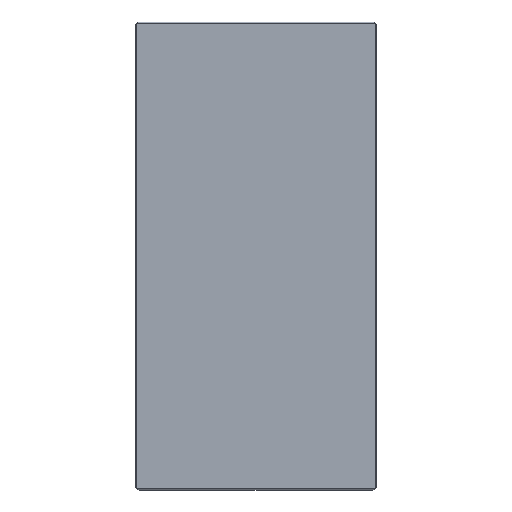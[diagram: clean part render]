
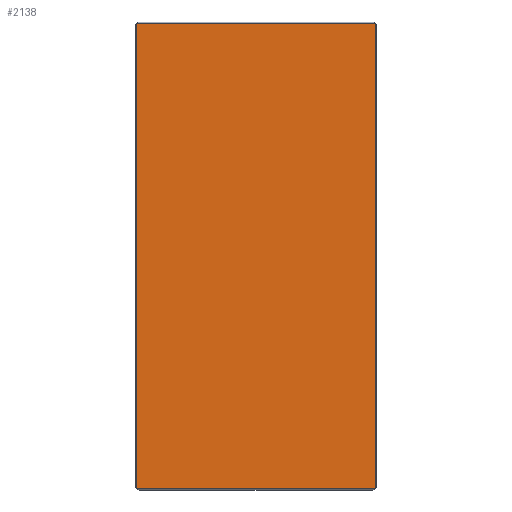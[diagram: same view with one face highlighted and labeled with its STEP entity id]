
A CAD part, top view. The second image highlights one B-rep face of the part: STEP entity #2138.
In plain terms, the highlighted planar face has unit normal (0, 0, 1).
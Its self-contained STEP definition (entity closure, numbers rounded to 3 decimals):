
#10 = VERTEX_POINT ( 'NONE', #2147 ) ;
#20 = EDGE_LOOP ( 'NONE', ( #943, #1524, #2409, #2237, #161, #1398, #839, #2666, #2124, #2148, #697, #512, #1185, #1457, #2565, #53, #2177, #723, #2439, #1921 ) ) ;
#26 = VECTOR ( 'NONE', #996, 1000. ) ;
#51 = VERTEX_POINT ( 'NONE', #1832 ) ;
#53 = ORIENTED_EDGE ( 'NONE', *, *, #2359, .F. ) ;
#70 = CARTESIAN_POINT ( 'NONE',  ( -246.5, 478.25, 2. ) ) ;
#88 = CARTESIAN_POINT ( 'NONE',  ( 246.5, 478.25, 2. ) ) ;
#124 = AXIS2_PLACEMENT_3D ( 'NONE', #526, #1211, #2684 ) ;
#130 = VERTEX_POINT ( 'NONE', #2145 ) ;
#161 = ORIENTED_EDGE ( 'NONE', *, *, #2300, .F. ) ;
#178 = CARTESIAN_POINT ( 'NONE',  ( 245., 479.25, 2. ) ) ;
#198 = VERTEX_POINT ( 'NONE', #2437 ) ;
#226 = CARTESIAN_POINT ( 'NONE',  ( -245.75, 478.25, 2. ) ) ;
#227 = LINE ( 'NONE', #247, #2423 ) ;
#233 = DIRECTION ( 'NONE',  ( 0., -1., 0. ) ) ;
#245 = VERTEX_POINT ( 'NONE', #2548 ) ;
#247 = CARTESIAN_POINT ( 'NONE',  ( -245., 480., 2. ) ) ;
#254 = VECTOR ( 'NONE', #646, 1000. ) ;
#275 = CARTESIAN_POINT ( 'NONE',  ( 245.75, -478.25, 2. ) ) ;
#281 = EDGE_CURVE ( 'NONE', #1216, #2362, #379, .T. ) ;
#292 = LINE ( 'NONE', #700, #1967 ) ;
#329 = LINE ( 'NONE', #391, #254 ) ;
#330 = CARTESIAN_POINT ( 'NONE',  ( -245.75, -479.25, 2. ) ) ;
#331 = CARTESIAN_POINT ( 'NONE',  ( 245.75, -479.25, 2. ) ) ;
#344 = EDGE_CURVE ( 'NONE', #1331, #245, #227, .T. ) ;
#352 = DIRECTION ( 'NONE',  ( -1., 0., 0. ) ) ;
#363 = DIRECTION ( 'NONE',  ( 0., -1., 0. ) ) ;
#375 = DIRECTION ( 'NONE',  ( 0., -1., 0. ) ) ;
#379 = LINE ( 'NONE', #2724, #2068 ) ;
#391 = CARTESIAN_POINT ( 'NONE',  ( 245.75, -478.25, 2. ) ) ;
#408 = VECTOR ( 'NONE', #1867, 1000. ) ;
#411 = LINE ( 'NONE', #855, #2585 ) ;
#456 = DIRECTION ( 'NONE',  ( 1., 0., 0. ) ) ;
#469 = EDGE_CURVE ( 'NONE', #870, #51, #2167, .T. ) ;
#482 = LINE ( 'NONE', #548, #408 ) ;
#496 = CARTESIAN_POINT ( 'NONE',  ( -245., 480., 2. ) ) ;
#512 = ORIENTED_EDGE ( 'NONE', *, *, #742, .T. ) ;
#526 = CARTESIAN_POINT ( 'NONE',  ( 0., 0., 2. ) ) ;
#529 = VECTOR ( 'NONE', #1254, 1000. ) ;
#531 = LINE ( 'NONE', #554, #1072 ) ;
#543 = DIRECTION ( 'NONE',  ( 0., -1., 0. ) ) ;
#548 = CARTESIAN_POINT ( 'NONE',  ( 245., -480., 2. ) ) ;
#554 = CARTESIAN_POINT ( 'NONE',  ( -246.5, 0., 2. ) ) ;
#559 = DIRECTION ( 'NONE',  ( 0., 1., 0. ) ) ;
#589 = VERTEX_POINT ( 'NONE', #1307 ) ;
#604 = EDGE_CURVE ( 'NONE', #2748, #1567, #2518, .T. ) ;
#626 = CARTESIAN_POINT ( 'NONE',  ( 245.75, -479.25, 2. ) ) ;
#645 = VECTOR ( 'NONE', #982, 1000. ) ;
#646 = DIRECTION ( 'NONE',  ( -1., 0., 0. ) ) ;
#677 = VECTOR ( 'NONE', #352, 1000. ) ;
#697 = ORIENTED_EDGE ( 'NONE', *, *, #1824, .F. ) ;
#700 = CARTESIAN_POINT ( 'NONE',  ( 245.75, 478.25, 2. ) ) ;
#720 = CARTESIAN_POINT ( 'NONE',  ( 246.5, 478.25, 2. ) ) ;
#723 = ORIENTED_EDGE ( 'NONE', *, *, #344, .F. ) ;
#740 = CARTESIAN_POINT ( 'NONE',  ( -245., -479.25, 2. ) ) ;
#742 = EDGE_CURVE ( 'NONE', #10, #2769, #2135, .T. ) ;
#746 = LINE ( 'NONE', #496, #1339 ) ;
#749 = VECTOR ( 'NONE', #1026, 1000. ) ;
#750 = EDGE_CURVE ( 'NONE', #1039, #2581, #531, .T. ) ;
#798 = CARTESIAN_POINT ( 'NONE',  ( -245.75, 479.25, 2. ) ) ;
#833 = VERTEX_POINT ( 'NONE', #226 ) ;
#839 = ORIENTED_EDGE ( 'NONE', *, *, #281, .T. ) ;
#846 = DIRECTION ( 'NONE',  ( 0., 1., 0. ) ) ;
#855 = CARTESIAN_POINT ( 'NONE',  ( -245.75, 478.25, 2. ) ) ;
#870 = VERTEX_POINT ( 'NONE', #178 ) ;
#909 = CARTESIAN_POINT ( 'NONE',  ( -245., 479.25, 2. ) ) ;
#943 = ORIENTED_EDGE ( 'NONE', *, *, #1797, .F. ) ;
#962 = LINE ( 'NONE', #2637, #2035 ) ;
#982 = DIRECTION ( 'NONE',  ( 1., 0., 0. ) ) ;
#996 = DIRECTION ( 'NONE',  ( -1., 0., 0. ) ) ;
#1026 = DIRECTION ( 'NONE',  ( 0., 1., 0. ) ) ;
#1039 = VERTEX_POINT ( 'NONE', #70 ) ;
#1071 = EDGE_CURVE ( 'NONE', #833, #198, #1971, .T. ) ;
#1072 = VECTOR ( 'NONE', #543, 1000. ) ;
#1131 = VECTOR ( 'NONE', #375, 1000. ) ;
#1138 = LINE ( 'NONE', #2532, #529 ) ;
#1157 = EDGE_CURVE ( 'NONE', #2268, #589, #1138, .T. ) ;
#1175 = CARTESIAN_POINT ( 'NONE',  ( -245.75, -479.25, 2. ) ) ;
#1185 = ORIENTED_EDGE ( 'NONE', *, *, #2458, .F. ) ;
#1211 = DIRECTION ( 'NONE',  ( 0., 0., -1. ) ) ;
#1216 = VERTEX_POINT ( 'NONE', #2553 ) ;
#1254 = DIRECTION ( 'NONE',  ( -1., 0., 0. ) ) ;
#1266 = EDGE_CURVE ( 'NONE', #1216, #2563, #1936, .T. ) ;
#1299 = DIRECTION ( 'NONE',  ( 0., 1., 0. ) ) ;
#1307 = CARTESIAN_POINT ( 'NONE',  ( 245., -479.25, 2. ) ) ;
#1331 = VERTEX_POINT ( 'NONE', #909 ) ;
#1339 = VECTOR ( 'NONE', #2036, 1000. ) ;
#1398 = ORIENTED_EDGE ( 'NONE', *, *, #1266, .F. ) ;
#1428 = CARTESIAN_POINT ( 'NONE',  ( -245.75, -478.25, 2. ) ) ;
#1435 = EDGE_CURVE ( 'NONE', #51, #1895, #962, .T. ) ;
#1457 = ORIENTED_EDGE ( 'NONE', *, *, #1435, .F. ) ;
#1471 = EDGE_CURVE ( 'NONE', #130, #245, #746, .T. ) ;
#1513 = CARTESIAN_POINT ( 'NONE',  ( 245., -480., 2. ) ) ;
#1517 = VECTOR ( 'NONE', #363, 1000. ) ;
#1524 = ORIENTED_EDGE ( 'NONE', *, *, #750, .T. ) ;
#1541 = VERTEX_POINT ( 'NONE', #275 ) ;
#1561 = EDGE_CURVE ( 'NONE', #1567, #2581, #1711, .T. ) ;
#1567 = VERTEX_POINT ( 'NONE', #1428 ) ;
#1588 = VECTOR ( 'NONE', #559, 1000. ) ;
#1615 = VECTOR ( 'NONE', #1623, 1000. ) ;
#1623 = DIRECTION ( 'NONE',  ( 1., 0., 0. ) ) ;
#1705 = CARTESIAN_POINT ( 'NONE',  ( -245., -479.25, 2. ) ) ;
#1711 = LINE ( 'NONE', #2265, #26 ) ;
#1728 = CARTESIAN_POINT ( 'NONE',  ( 245., 480., 2. ) ) ;
#1797 = EDGE_CURVE ( 'NONE', #1039, #833, #411, .T. ) ;
#1803 = LINE ( 'NONE', #2677, #645 ) ;
#1811 = CARTESIAN_POINT ( 'NONE',  ( 245., 479.25, 2. ) ) ;
#1824 = EDGE_CURVE ( 'NONE', #10, #1541, #329, .T. ) ;
#1832 = CARTESIAN_POINT ( 'NONE',  ( 245.75, 479.25, 2. ) ) ;
#1838 = CARTESIAN_POINT ( 'NONE',  ( -246.5, -478.25, 2. ) ) ;
#1867 = DIRECTION ( 'NONE',  ( 0., -1., 0. ) ) ;
#1895 = VERTEX_POINT ( 'NONE', #2798 ) ;
#1909 = VECTOR ( 'NONE', #1299, 1000. ) ;
#1921 = ORIENTED_EDGE ( 'NONE', *, *, #1071, .F. ) ;
#1936 = LINE ( 'NONE', #2158, #2417 ) ;
#1967 = VECTOR ( 'NONE', #456, 1000. ) ;
#1971 = LINE ( 'NONE', #798, #749 ) ;
#2035 = VECTOR ( 'NONE', #233, 1000. ) ;
#2036 = DIRECTION ( 'NONE',  ( -1., 0., 0. ) ) ;
#2053 = PLANE ( 'NONE',  #124 ) ;
#2068 = VECTOR ( 'NONE', #2639, 1000. ) ;
#2121 = EDGE_CURVE ( 'NONE', #198, #1331, #1803, .T. ) ;
#2124 = ORIENTED_EDGE ( 'NONE', *, *, #1157, .F. ) ;
#2132 = LINE ( 'NONE', #626, #1517 ) ;
#2135 = LINE ( 'NONE', #720, #1588 ) ;
#2138 = ADVANCED_FACE ( 'NONE', ( #2839 ), #2053, .F. ) ;
#2145 = CARTESIAN_POINT ( 'NONE',  ( 245., 480., 2. ) ) ;
#2147 = CARTESIAN_POINT ( 'NONE',  ( 246.5, -478.25, 2. ) ) ;
#2148 = ORIENTED_EDGE ( 'NONE', *, *, #2846, .F. ) ;
#2158 = CARTESIAN_POINT ( 'NONE',  ( -245., -480., 2. ) ) ;
#2167 = LINE ( 'NONE', #1811, #1615 ) ;
#2177 = ORIENTED_EDGE ( 'NONE', *, *, #1471, .T. ) ;
#2187 = LINE ( 'NONE', #1728, #1131 ) ;
#2200 = EDGE_CURVE ( 'NONE', #589, #2362, #482, .T. ) ;
#2237 = ORIENTED_EDGE ( 'NONE', *, *, #604, .F. ) ;
#2265 = CARTESIAN_POINT ( 'NONE',  ( -245.75, -478.25, 2. ) ) ;
#2268 = VERTEX_POINT ( 'NONE', #331 ) ;
#2300 = EDGE_CURVE ( 'NONE', #2563, #2748, #2315, .T. ) ;
#2315 = LINE ( 'NONE', #1705, #677 ) ;
#2359 = EDGE_CURVE ( 'NONE', #130, #870, #2187, .T. ) ;
#2362 = VERTEX_POINT ( 'NONE', #1513 ) ;
#2367 = DIRECTION ( 'NONE',  ( 0., 1., 0. ) ) ;
#2409 = ORIENTED_EDGE ( 'NONE', *, *, #1561, .F. ) ;
#2417 = VECTOR ( 'NONE', #2367, 1000. ) ;
#2423 = VECTOR ( 'NONE', #846, 1000. ) ;
#2437 = CARTESIAN_POINT ( 'NONE',  ( -245.75, 479.25, 2. ) ) ;
#2439 = ORIENTED_EDGE ( 'NONE', *, *, #2121, .F. ) ;
#2458 = EDGE_CURVE ( 'NONE', #1895, #2769, #292, .T. ) ;
#2518 = LINE ( 'NONE', #1175, #1909 ) ;
#2532 = CARTESIAN_POINT ( 'NONE',  ( 245., -479.25, 2. ) ) ;
#2548 = CARTESIAN_POINT ( 'NONE',  ( -245., 480., 2. ) ) ;
#2553 = CARTESIAN_POINT ( 'NONE',  ( -245., -480., 2. ) ) ;
#2559 = DIRECTION ( 'NONE',  ( 1., 0., 0. ) ) ;
#2563 = VERTEX_POINT ( 'NONE', #740 ) ;
#2565 = ORIENTED_EDGE ( 'NONE', *, *, #469, .F. ) ;
#2581 = VERTEX_POINT ( 'NONE', #1838 ) ;
#2585 = VECTOR ( 'NONE', #2559, 1000. ) ;
#2637 = CARTESIAN_POINT ( 'NONE',  ( 245.75, 479.25, 2. ) ) ;
#2639 = DIRECTION ( 'NONE',  ( 1., 0., 0. ) ) ;
#2666 = ORIENTED_EDGE ( 'NONE', *, *, #2200, .F. ) ;
#2677 = CARTESIAN_POINT ( 'NONE',  ( -245., 479.25, 2. ) ) ;
#2684 = DIRECTION ( 'NONE',  ( -1., 0., 0. ) ) ;
#2724 = CARTESIAN_POINT ( 'NONE',  ( 245., -480., 2. ) ) ;
#2748 = VERTEX_POINT ( 'NONE', #330 ) ;
#2769 = VERTEX_POINT ( 'NONE', #88 ) ;
#2798 = CARTESIAN_POINT ( 'NONE',  ( 245.75, 478.25, 2. ) ) ;
#2839 = FACE_OUTER_BOUND ( 'NONE', #20, .T. ) ;
#2846 = EDGE_CURVE ( 'NONE', #1541, #2268, #2132, .T. ) ;
